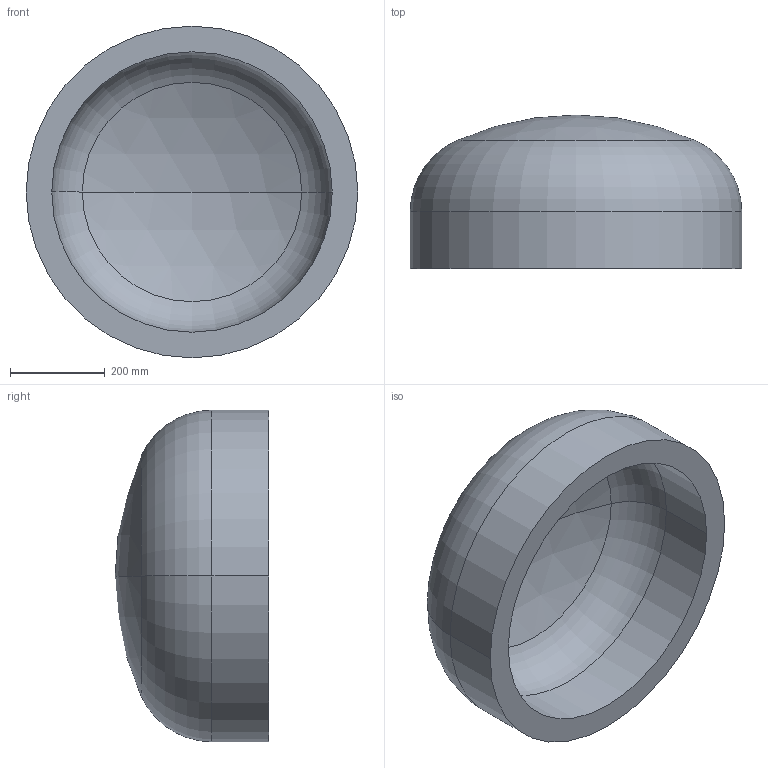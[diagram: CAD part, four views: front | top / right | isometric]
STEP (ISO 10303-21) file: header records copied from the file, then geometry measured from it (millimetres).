
FILE_DESCRIPTION (( 'STEP AP203' ), '1' );
FILE_NAME ('DIN 28013 Korbbogenform_-_Boden DIN 28013 - 700 x 120 - I - s=54.step', '2016-07-01T08:09:05', ( '' ), ( '' ), 'SwSTEP 2.0', 'SolidWorks 2013', '' );
FILE_SCHEMA (( 'CONFIG_CONTROL_DESIGN' ));
Length unit declared in the file: millimetre
Products named in the file (1): DIN 28013 Korbbogenform_-_Boden DIN 28013 - 700 x 120 - I - s=54
Bounding box: 700 x 324.24 x 700 mm (x, y, z)
Volume: 39382958.8 mm3; surface area: 1574326.5 mm2
Topology: 1 solids, 1 shells, 13 faces, 24 edges, 14 vertices
Faces by surface type: torus 4, cylinder 4, sphere 4, plane 1
Entity records: 407 total; most frequent: DIRECTION 72, CARTESIAN_POINT 52, ORIENTED_EDGE 48, AXIS2_PLACEMENT_3D 34, EDGE_CURVE 24, CIRCLE 20, VERTEX_POINT 14, EDGE_LOOP 14
